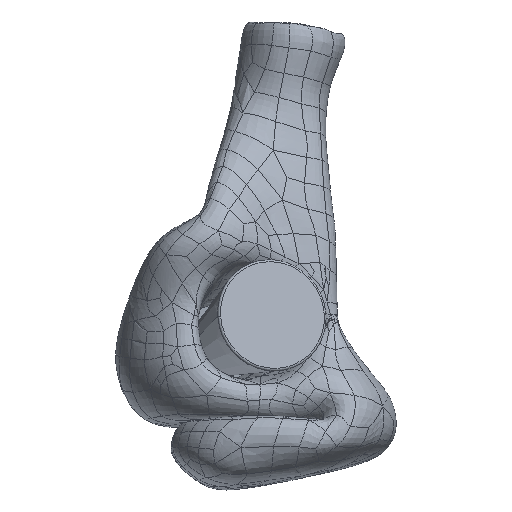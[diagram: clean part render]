
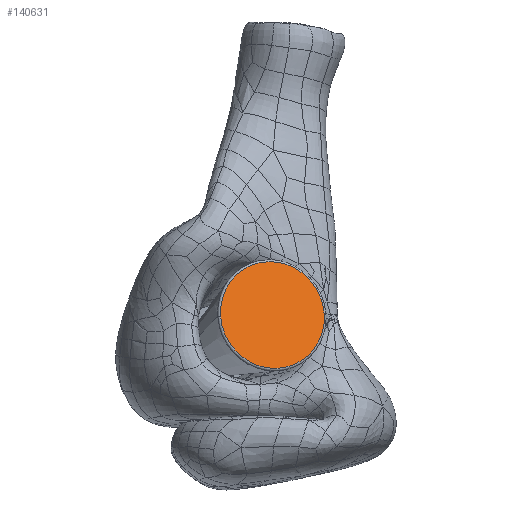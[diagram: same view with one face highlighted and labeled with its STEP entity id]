
A CAD part, top view. The second image highlights one B-rep face of the part: STEP entity #140631.
In plain terms, the highlighted planar face has unit normal (0.28, 0.159, 0.947) as drawn and (1, 0, 0) by its records, which use the part's own axes.
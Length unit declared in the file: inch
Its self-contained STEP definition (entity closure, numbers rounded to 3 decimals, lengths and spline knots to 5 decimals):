
#2204 = CARTESIAN_POINT ( 'NONE',  ( 0., 0., 0. ) ) ;
#3111 = DIRECTION ( 'NONE',  ( 1., 0., 0. ) ) ;
#16704 = DIRECTION ( 'NONE',  ( 0., 1., 0. ) ) ;
#22245 = AXIS2_PLACEMENT_3D ( 'NONE', #79292, #78398, #108266 ) ;
#38856 = AXIS2_PLACEMENT_3D ( 'NONE', #134707, #47792, #148294 ) ;
#47792 = DIRECTION ( 'NONE',  ( 1., 0., 0. ) ) ;
#56576 = FACE_OUTER_BOUND ( 'NONE', #110048, .T. ) ;
#59890 = CIRCLE ( 'NONE', #22245, 1.91006 ) ;
#76915 = CARTESIAN_POINT ( 'NONE',  ( 0., -1.91006, 0. ) ) ;
#78398 = DIRECTION ( 'NONE',  ( 1., 0., 0. ) ) ;
#79292 = CARTESIAN_POINT ( 'NONE',  ( 0., 0., 0. ) ) ;
#85050 = ORIENTED_EDGE ( 'NONE', *, *, #89075, .T. ) ;
#87884 = VERTEX_POINT ( 'NONE', #76915 ) ;
#89075 = EDGE_CURVE ( 'NONE', #114009, #87884, #137297, .T. ) ;
#108266 = DIRECTION ( 'NONE',  ( 0., 1., 0. ) ) ;
#108993 = CARTESIAN_POINT ( 'NONE',  ( 0., 1.91006, 0. ) ) ;
#110048 = EDGE_LOOP ( 'NONE', ( #85050, #157170 ) ) ;
#111849 = PLANE ( 'NONE',  #161117 ) ;
#114009 = VERTEX_POINT ( 'NONE', #108993 ) ;
#134707 = CARTESIAN_POINT ( 'NONE',  ( 0., 0., 0. ) ) ;
#137297 = CIRCLE ( 'NONE', #38856, 1.91006 ) ;
#140235 = EDGE_CURVE ( 'NONE', #87884, #114009, #59890, .T. ) ;
#140631 = ADVANCED_FACE ( 'NONE', ( #56576 ), #111849, .T. ) ;
#148294 = DIRECTION ( 'NONE',  ( 0., 1., 0. ) ) ;
#157170 = ORIENTED_EDGE ( 'NONE', *, *, #140235, .T. ) ;
#161117 = AXIS2_PLACEMENT_3D ( 'NONE', #2204, #3111, #16704 ) ;
